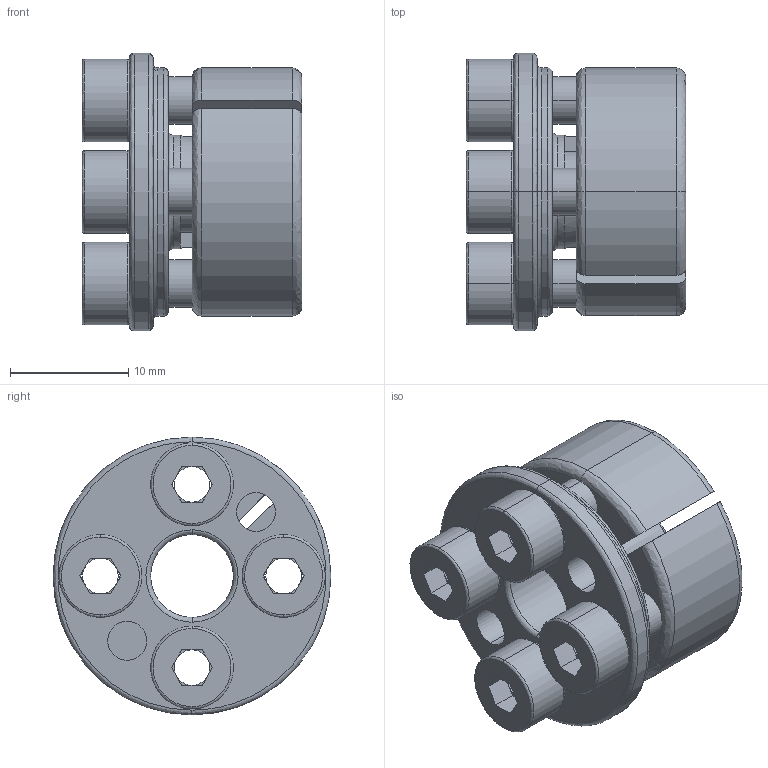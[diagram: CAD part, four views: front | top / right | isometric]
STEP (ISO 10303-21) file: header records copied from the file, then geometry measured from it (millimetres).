
FILE_DESCRIPTION (( 'STEP AP203' ), '1' );
FILE_NAME ('SAPL-A-7-21-ASSY1.STEP', '2020-09-08T10:27:27', ( '' ), ( '' ), 'SwSTEP 2.0', 'SolidWorks 2015', '' );
FILE_SCHEMA (( 'CONFIG_CONTROL_DESIGN' ));
Length unit declared in the file: millimetre
Products named in the file (1): SAPL-A-7-21-ASSY1
Bounding box: 18.6 x 23.5 x 23.5 mm (x, y, z)
Surface area: 4342 mm2 (no closed solid volume)
Topology: 0 solids, 10 shells, 169 faces, 450 edges, 276 vertices
Faces by surface type: plane 65, cylinder 55, bspline 45, cone 4
Entity records: 6326 total; most frequent: CARTESIAN_POINT 2303, ORIENTED_EDGE 810, DIRECTION 804, EDGE_CURVE 450, AXIS2_PLACEMENT_3D 311, VERTEX_POINT 276, EDGE_LOOP 196, CIRCLE 186
